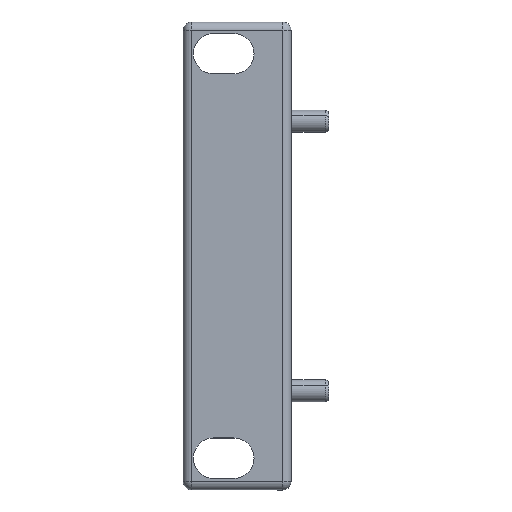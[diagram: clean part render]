
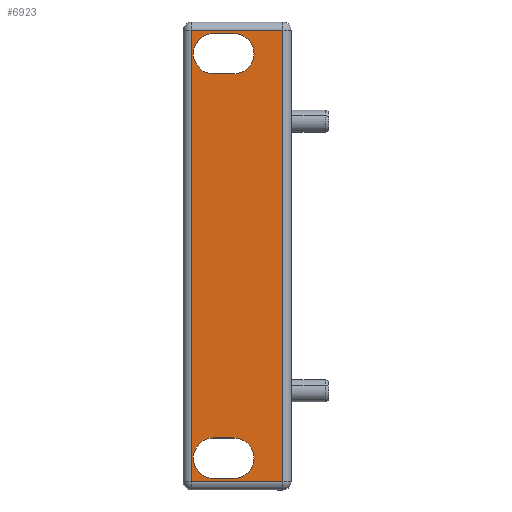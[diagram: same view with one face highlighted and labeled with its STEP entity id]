
A CAD part, top view. The second image highlights one B-rep face of the part: STEP entity #6923.
In plain terms, the highlighted planar face has unit normal (0, 0, 1).
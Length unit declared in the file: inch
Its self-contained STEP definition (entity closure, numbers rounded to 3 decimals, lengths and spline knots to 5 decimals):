
#48 = ORIENTED_EDGE ( 'NONE', *, *, #664, .F. ) ;
#88 = CARTESIAN_POINT ( 'NONE',  ( -9.275, -1.65, 0. ) ) ;
#103 = CARTESIAN_POINT ( 'NONE',  ( -8.7625, 1.735, 0. ) ) ;
#247 = LINE ( 'NONE', #4703, #2487 ) ;
#349 = DIRECTION ( 'NONE',  ( 1., 0., 0. ) ) ;
#664 = EDGE_CURVE ( 'NONE', #8061, #786, #3499, .T. ) ;
#786 = VERTEX_POINT ( 'NONE', #12316 ) ;
#1178 = ORIENTED_EDGE ( 'NONE', *, *, #8196, .F. ) ;
#1271 = DIRECTION ( 'NONE',  ( 0., 0., 1. ) ) ;
#1340 = VECTOR ( 'NONE', #1570, 39.37008 ) ;
#1362 = CIRCLE ( 'NONE', #8640, 0.15 ) ;
#1570 = DIRECTION ( 'NONE',  ( -1., 0., 0. ) ) ;
#1638 = ORIENTED_EDGE ( 'NONE', *, *, #10695, .T. ) ;
#1727 = DIRECTION ( 'NONE',  ( 0., 0., 1. ) ) ;
#1729 = ORIENTED_EDGE ( 'NONE', *, *, #8597, .F. ) ;
#1920 = ORIENTED_EDGE ( 'NONE', *, *, #9362, .F. ) ;
#1980 = DIRECTION ( 'NONE',  ( -1., 0., 0. ) ) ;
#2170 = CARTESIAN_POINT ( 'NONE',  ( -9.275, 1.5, 0. ) ) ;
#2286 = CARTESIAN_POINT ( 'NONE',  ( -9.125, -1.35, 0. ) ) ;
#2487 = VECTOR ( 'NONE', #12293, 39.37008 ) ;
#2555 = DIRECTION ( 'NONE',  ( 0., 0., 1. ) ) ;
#2629 = CARTESIAN_POINT ( 'NONE',  ( -9.125, -1.5, 0. ) ) ;
#2761 = CARTESIAN_POINT ( 'NONE',  ( -9.275, -1.65, 0. ) ) ;
#2765 = DIRECTION ( 'NONE',  ( 0., 0., -1. ) ) ;
#2973 = DIRECTION ( 'NONE',  ( 0., 1., 0. ) ) ;
#2975 = EDGE_LOOP ( 'NONE', ( #4217, #5504, #7646, #1729, #5031 ) ) ;
#3043 = VERTEX_POINT ( 'NONE', #7890 ) ;
#3047 = EDGE_CURVE ( 'NONE', #10781, #5228, #4153, .T. ) ;
#3422 = LINE ( 'NONE', #6760, #11028 ) ;
#3499 = LINE ( 'NONE', #2761, #8701 ) ;
#3511 = EDGE_CURVE ( 'NONE', #10727, #4073, #7272, .T. ) ;
#3554 = VECTOR ( 'NONE', #349, 39.37008 ) ;
#3559 = CARTESIAN_POINT ( 'NONE',  ( -9.4375, -1.6725, 0. ) ) ;
#3571 = DIRECTION ( 'NONE',  ( 1., 0., 0. ) ) ;
#3605 = AXIS2_PLACEMENT_3D ( 'NONE', #7441, #1727, #8378 ) ;
#3788 = LINE ( 'NONE', #103, #7293 ) ;
#3884 = LINE ( 'NONE', #10135, #1340 ) ;
#3889 = AXIS2_PLACEMENT_3D ( 'NONE', #8213, #2555, #9204 ) ;
#4073 = VERTEX_POINT ( 'NONE', #10169 ) ;
#4153 = LINE ( 'NONE', #8419, #10988 ) ;
#4217 = ORIENTED_EDGE ( 'NONE', *, *, #6802, .F. ) ;
#4444 = FACE_BOUND ( 'NONE', #2975, .T. ) ;
#4611 = DIRECTION ( 'NONE',  ( 0., 0., 1. ) ) ;
#4703 = CARTESIAN_POINT ( 'NONE',  ( -8.7, 1.6725, 0. ) ) ;
#5031 = ORIENTED_EDGE ( 'NONE', *, *, #10646, .F. ) ;
#5073 = CARTESIAN_POINT ( 'NONE',  ( -9.275, 1.35, 0. ) ) ;
#5228 = VERTEX_POINT ( 'NONE', #3559 ) ;
#5406 = CIRCLE ( 'NONE', #8071, 0.15 ) ;
#5504 = ORIENTED_EDGE ( 'NONE', *, *, #3511, .F. ) ;
#5729 = FACE_BOUND ( 'NONE', #11277, .T. ) ;
#5744 = AXIS2_PLACEMENT_3D ( 'NONE', #2170, #8839, #10699 ) ;
#5748 = VERTEX_POINT ( 'NONE', #6959 ) ;
#5826 = CARTESIAN_POINT ( 'NONE',  ( -9.125, 1.35, 0. ) ) ;
#6238 = EDGE_CURVE ( 'NONE', #9056, #8003, #3422, .T. ) ;
#6375 = AXIS2_PLACEMENT_3D ( 'NONE', #2629, #9275, #3571 ) ;
#6441 = CARTESIAN_POINT ( 'NONE',  ( -8.975, -1.5, 0. ) ) ;
#6651 = CARTESIAN_POINT ( 'NONE',  ( -9.275, 1.65, 0. ) ) ;
#6760 = CARTESIAN_POINT ( 'NONE',  ( -9.275, -1.35, 0. ) ) ;
#6802 = EDGE_CURVE ( 'NONE', #4073, #7508, #10973, .T. ) ;
#6923 = ADVANCED_FACE ( 'NONE', ( #11848, #5729, #4444 ), #11855, .F. ) ;
#6959 = CARTESIAN_POINT ( 'NONE',  ( -8.975, 1.5, 0. ) ) ;
#6989 = CARTESIAN_POINT ( 'NONE',  ( -9.275, -1.5, 0. ) ) ;
#7272 = CIRCLE ( 'NONE', #5744, 0.15 ) ;
#7293 = VECTOR ( 'NONE', #2973, 39.37008 ) ;
#7441 = CARTESIAN_POINT ( 'NONE',  ( -9.125, 1.5, 0. ) ) ;
#7487 = EDGE_CURVE ( 'NONE', #7495, #11261, #3788, .T. ) ;
#7495 = VERTEX_POINT ( 'NONE', #8653 ) ;
#7508 = VERTEX_POINT ( 'NONE', #5826 ) ;
#7615 = CARTESIAN_POINT ( 'NONE',  ( -8.7, -1.6725, 0. ) ) ;
#7646 = ORIENTED_EDGE ( 'NONE', *, *, #8890, .F. ) ;
#7832 = CARTESIAN_POINT ( 'NONE',  ( -8.7625, 1.6725, 0. ) ) ;
#7856 = ORIENTED_EDGE ( 'NONE', *, *, #6238, .F. ) ;
#7867 = VERTEX_POINT ( 'NONE', #6441 ) ;
#7890 = CARTESIAN_POINT ( 'NONE',  ( -9.125, 1.65, 0. ) ) ;
#7904 = DIRECTION ( 'NONE',  ( -1., 0., 0. ) ) ;
#8003 = VERTEX_POINT ( 'NONE', #10434 ) ;
#8052 = DIRECTION ( 'NONE',  ( 0., -1., 0. ) ) ;
#8061 = VERTEX_POINT ( 'NONE', #88 ) ;
#8071 = AXIS2_PLACEMENT_3D ( 'NONE', #10307, #4611, #11247 ) ;
#8196 = EDGE_CURVE ( 'NONE', #8003, #8061, #1362, .T. ) ;
#8213 = CARTESIAN_POINT ( 'NONE',  ( -9.125, -1.5, 0. ) ) ;
#8378 = DIRECTION ( 'NONE',  ( -1., 0., 0. ) ) ;
#8419 = CARTESIAN_POINT ( 'NONE',  ( -9.4375, -1.735, 0. ) ) ;
#8443 = CARTESIAN_POINT ( 'NONE',  ( -8.7, 1.735, 0. ) ) ;
#8574 = DIRECTION ( 'NONE',  ( 1., 0., 0. ) ) ;
#8597 = EDGE_CURVE ( 'NONE', #5748, #3043, #5406, .T. ) ;
#8614 = EDGE_CURVE ( 'NONE', #5228, #7495, #11761, .T. ) ;
#8640 = AXIS2_PLACEMENT_3D ( 'NONE', #6989, #1271, #7904 ) ;
#8653 = CARTESIAN_POINT ( 'NONE',  ( -8.7625, -1.6725, 0. ) ) ;
#8701 = VECTOR ( 'NONE', #9371, 39.37008 ) ;
#8839 = DIRECTION ( 'NONE',  ( 0., 0., 1. ) ) ;
#8890 = EDGE_CURVE ( 'NONE', #3043, #10727, #3884, .T. ) ;
#9039 = CIRCLE ( 'NONE', #3889, 0.15 ) ;
#9056 = VERTEX_POINT ( 'NONE', #2286 ) ;
#9204 = DIRECTION ( 'NONE',  ( 1., 0., 0. ) ) ;
#9244 = VECTOR ( 'NONE', #8574, 39.37008 ) ;
#9275 = DIRECTION ( 'NONE',  ( 0., 0., 1. ) ) ;
#9362 = EDGE_CURVE ( 'NONE', #7867, #9056, #11297, .T. ) ;
#9371 = DIRECTION ( 'NONE',  ( 1., 0., 0. ) ) ;
#9415 = DIRECTION ( 'NONE',  ( -1., 0., 0. ) ) ;
#9550 = EDGE_LOOP ( 'NONE', ( #11897, #10454, #9849, #1638 ) ) ;
#9849 = ORIENTED_EDGE ( 'NONE', *, *, #7487, .T. ) ;
#9959 = ORIENTED_EDGE ( 'NONE', *, *, #10585, .F. ) ;
#10089 = CIRCLE ( 'NONE', #3605, 0.15 ) ;
#10135 = CARTESIAN_POINT ( 'NONE',  ( -9.275, 1.65, 0. ) ) ;
#10169 = CARTESIAN_POINT ( 'NONE',  ( -9.275, 1.35, 0. ) ) ;
#10307 = CARTESIAN_POINT ( 'NONE',  ( -9.125, 1.5, 0. ) ) ;
#10434 = CARTESIAN_POINT ( 'NONE',  ( -9.275, -1.35, 0. ) ) ;
#10454 = ORIENTED_EDGE ( 'NONE', *, *, #8614, .T. ) ;
#10585 = EDGE_CURVE ( 'NONE', #786, #7867, #9039, .T. ) ;
#10643 = CARTESIAN_POINT ( 'NONE',  ( -9.4375, 1.6725, 0. ) ) ;
#10646 = EDGE_CURVE ( 'NONE', #7508, #5748, #10089, .T. ) ;
#10695 = EDGE_CURVE ( 'NONE', #11261, #10781, #247, .T. ) ;
#10699 = DIRECTION ( 'NONE',  ( 1., 0., 0. ) ) ;
#10727 = VERTEX_POINT ( 'NONE', #6651 ) ;
#10781 = VERTEX_POINT ( 'NONE', #10643 ) ;
#10973 = LINE ( 'NONE', #5073, #3554 ) ;
#10988 = VECTOR ( 'NONE', #8052, 39.37008 ) ;
#11028 = VECTOR ( 'NONE', #1980, 39.37008 ) ;
#11247 = DIRECTION ( 'NONE',  ( -1., 0., 0. ) ) ;
#11261 = VERTEX_POINT ( 'NONE', #7832 ) ;
#11277 = EDGE_LOOP ( 'NONE', ( #48, #1178, #7856, #1920, #9959 ) ) ;
#11297 = CIRCLE ( 'NONE', #6375, 0.15 ) ;
#11406 = AXIS2_PLACEMENT_3D ( 'NONE', #8443, #2765, #9415 ) ;
#11761 = LINE ( 'NONE', #7615, #9244 ) ;
#11848 = FACE_OUTER_BOUND ( 'NONE', #9550, .T. ) ;
#11855 = PLANE ( 'NONE',  #11406 ) ;
#11897 = ORIENTED_EDGE ( 'NONE', *, *, #3047, .T. ) ;
#12293 = DIRECTION ( 'NONE',  ( -1., 0., 0. ) ) ;
#12316 = CARTESIAN_POINT ( 'NONE',  ( -9.125, -1.65, 0. ) ) ;
